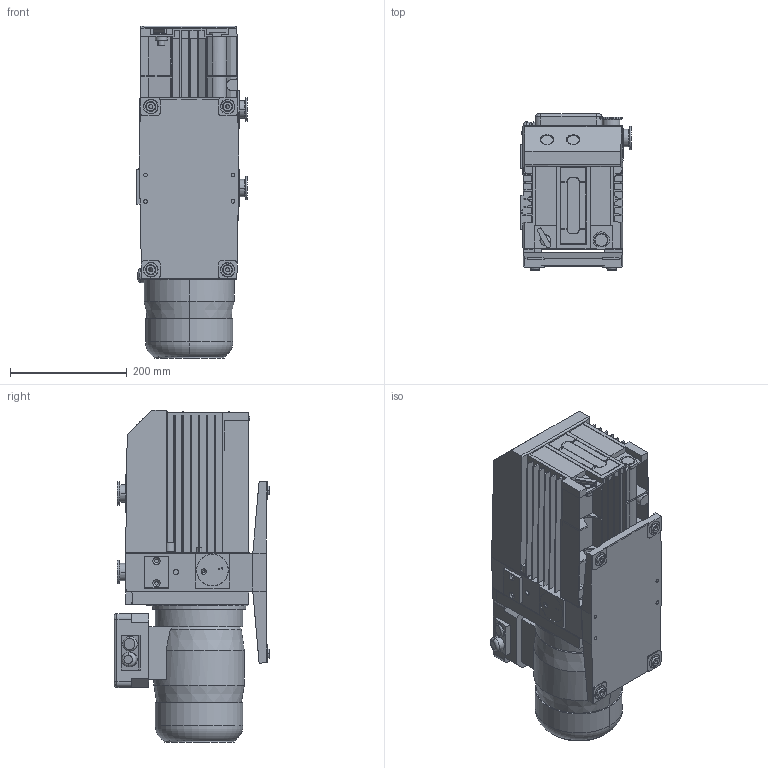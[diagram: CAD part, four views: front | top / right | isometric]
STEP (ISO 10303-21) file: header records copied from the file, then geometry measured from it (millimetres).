
FILE_DESCRIPTION((''),'2;1');
FILE_NAME('300591199_Y19_000_ASM','2016-03-09T',('56762'),('Copyright by Leybold GmbH'),'PRO/ENGINEER BY PARAMETRIC TECHNOLOGY CORPORATION, 2013320','PRO/ENGINEER BY PARAMETRIC TECHNOLOGY CORPORATION, 2013320','');
FILE_SCHEMA(('AUTOMOTIVE_DESIGN { 1 0 10303 214 1 1 1 1 }'));
Length unit declared in the file: millimetre
Products named in the file (20): 300591185_Y19_000; 300591187_Y19_000; 300591206_Y19_000; 300591212_Y19_000; 300591215_Y19_000; 300591188_Y19_000; 300591211_Y19_000; 300591201_Y19_000; 300590946_Y19_000; 300591208_Y19_000; 300591209_Y19_000; 300591197_Y19_000_ASM; 300590938_Y19_000; 300603189_Y19_000; 300591217_Y19_000; 300590913_Y19_000; 300590922_Y19_000_ASM; 300590935_Y19_000; 300591196_Y19_000; 300591199_Y19_000_ASM
Assembly tree (27 placements, depth 3):
  300591199_Y19_000_ASM
    300591197_Y19_000_ASM
      300591185_Y19_000
      300591187_Y19_000
      300591206_Y19_000
      300591212_Y19_000
      300591215_Y19_000
      300591188_Y19_000
      300591211_Y19_000
      300591201_Y19_000
      300590946_Y19_000
      300591208_Y19_000
      300591209_Y19_000
    300590938_Y19_000  x4
    300603189_Y19_000
    300591217_Y19_000
    300590922_Y19_000_ASM
      300590913_Y19_000
    300590935_Y19_000  x3
    300591196_Y19_000  x4
Bounding box: 190.4 x 267.7 x 569.79 mm (x, y, z)
Volume: 16573519.7 mm3; surface area: 1240302.1 mm2
Topology: 24 solids, 31 shells, 1132 faces, 2871 edges, 1872 vertices
Faces by surface type: plane 723, cylinder 273, cone 126, torus 6, bspline 4
Entity records: 29965 total; most frequent: CARTESIAN_POINT 5773, DIRECTION 4825, ORIENTED_EDGE 4734, EDGE_CURVE 2367, VECTOR 1737, LINE 1737, VERTEX_POINT 1548, AXIS2_PLACEMENT_3D 1544
